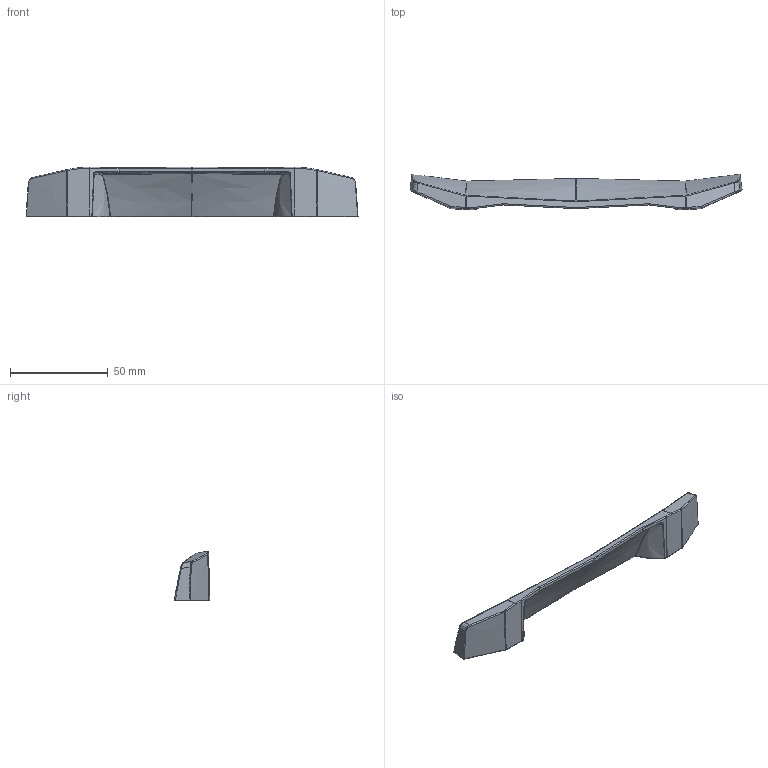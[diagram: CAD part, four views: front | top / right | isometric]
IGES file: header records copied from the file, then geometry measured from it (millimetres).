
Start section: C
Global section: file name: 8243-170.igs; native system: By Siemens PLM Incorporated; preprocessor: XPlus GENERIC/IGES 16.0.42; author: Author; organization: Title; date: 20231114.084102; units: millimetre
Bounding box: 170 x 18.05 x 25.36 mm (x, y, z)
Surface area: 15021.6 mm2 (no closed solid volume)
Topology: 0 solids, 0 shells, 181 faces, 1300 edges, 1293 vertices
Faces by surface type: bspline 181
